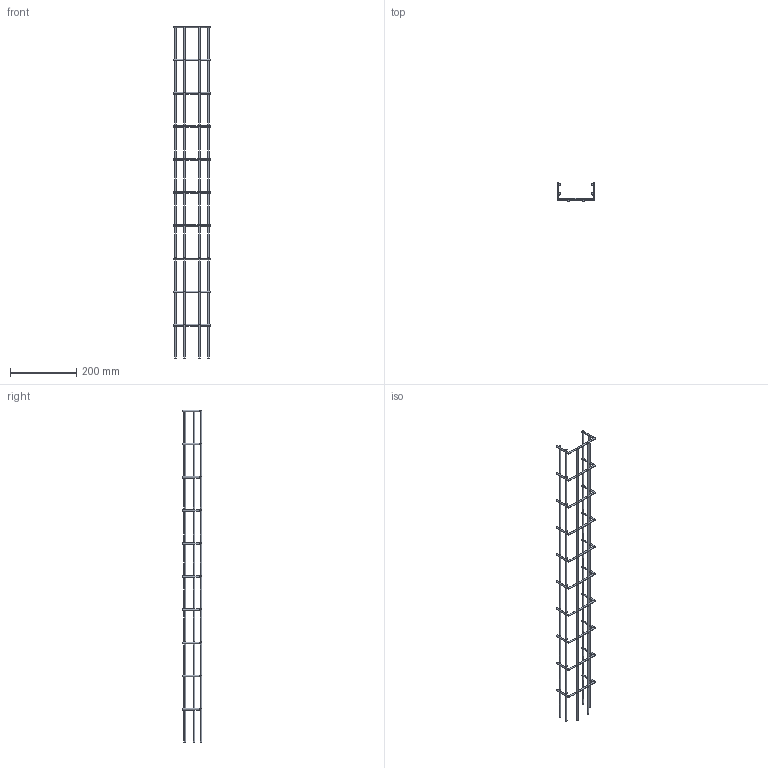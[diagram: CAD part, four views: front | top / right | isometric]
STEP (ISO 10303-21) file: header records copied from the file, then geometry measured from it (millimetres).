
FILE_DESCRIPTION (( 'STEP AP214' ), '1' );
FILE_NAME ('Chemin de cable fil.STEP', '2011-06-30T06:42:51', ( '.' ), ( '' ), 'SwSTEP 2.0', 'SolidWorks 2010', '' );
FILE_SCHEMA (( 'AUTOMOTIVE_DESIGN' ));
Length unit declared in the file: millimetre
Products named in the file (1): Chemin de cable fil
Bounding box: 114 x 58.5 x 1002 mm (x, y, z)
Volume: 161595.7 mm3; surface area: 132025.4 mm2
Topology: 70 solids, 70 shells, 320 faces, 520 edges, 340 vertices
Faces by surface type: cylinder 180, plane 140
Entity records: 8099 total; most frequent: DIRECTION 1382, CARTESIAN_POINT 1361, ORIENTED_EDGE 1040, AXIS2_PLACEMENT_3D 601, EDGE_CURVE 520, VERTEX_POINT 340, FACE_OUTER_BOUND 320, ADVANCED_FACE 320
